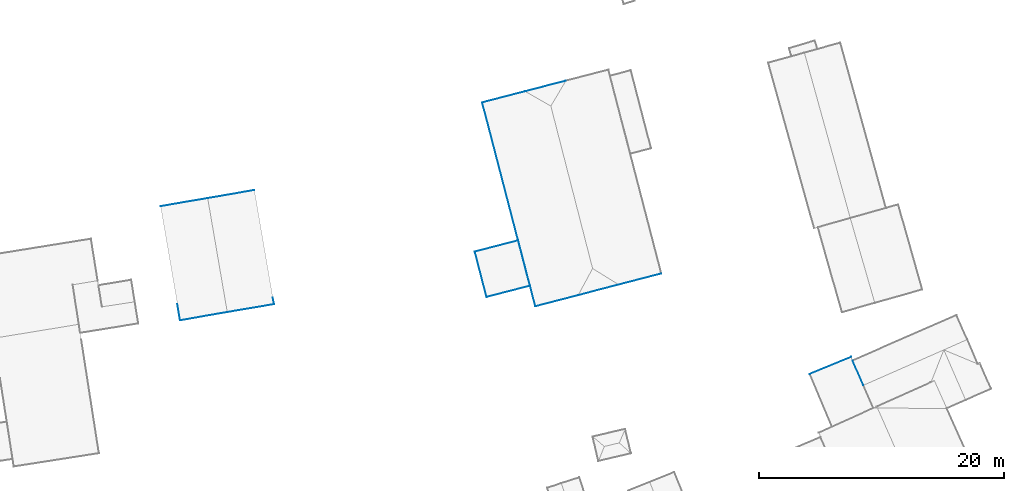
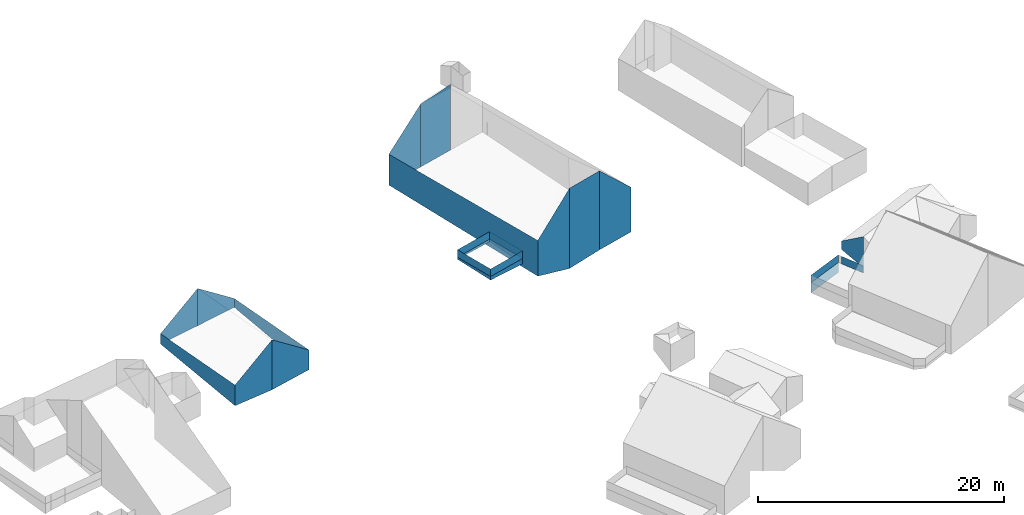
# Not in any storey, part 35 of 57: 30 walls.
"""IFC2X3 building model written with IfcOpenShell, lengths in metres."""

import ifcopenshell
import ifcopenshell.guid

model = None  # the IFC model being written
_history = None  # IfcOwnerHistory: only IFC2X3 demands one
_inside = {}  # id of a spatial element -> (the spatial element, [elements in it])
_under = {}  # id of a project, library or spatial element -> (it, [spatial elements below it])
_declared = {}  # id of a project -> (the project, [libraries it declares])
_typed = {}  # id of a type object -> (the type object, [elements of that type])
_made_of = {}  # id of a material, layer set ... -> (it, [elements and type objects made of it])


def new_model(schema):
    """Start an empty IFC model of exactly this schema.

    Asked for "IFC4X3", IfcOpenShell would pick the latest addendum, in which some entities
    have other attributes; the version numbers below select the first issue.
    IFC2X3 requires an IfcOwnerHistory on every rooted entity: one is made here for all.
    """
    global model, _history
    if schema == "IFC4X3":
        model = ifcopenshell.file(schema_version=(4, 3, 0, 0))
    else:
        model = ifcopenshell.file(schema=schema)
    _inside.clear()
    _under.clear()
    _declared.clear()
    _typed.clear()
    _made_of.clear()
    _history = None
    if model.schema == "IFC2X3":
        org = make("IfcOrganization", Name="unknown")
        user = make(
            "IfcPersonAndOrganization",
            ThePerson=make("IfcPerson", FamilyName="unknown"),
            TheOrganization=org,
        )
        app = make(
            "IfcApplication",
            ApplicationDeveloper=org,
            Version="unknown",
            ApplicationFullName="unknown",
            ApplicationIdentifier="unknown",
        )
        _history = make(
            "IfcOwnerHistory",
            OwningUser=user,
            OwningApplication=app,
            ChangeAction="ADDED",
            CreationDate=0,
        )
    return model


def make(cls, **values):
    """One entity of the class cls with the attributes given. An attribute that is None is left unset."""
    return model.create_entity(
        cls, **{name: value for name, value in values.items() if value is not None}
    )


def entity(cls, *values):
    """Any entity or typed value of the class cls, its attributes in the order of the schema. None: left unset."""
    e = model.create_entity(cls)
    for i, value in enumerate(values):
        if value is not None:
            e[i] = value
    return e


def rooted(cls, **values):
    """An entity with a GlobalId (a new one), such as an element, a storey or a relation."""
    return make(cls, GlobalId=ifcopenshell.guid.new(), OwnerHistory=_history, **values)


def si_unit(unit_type, name, prefix=None):
    """IfcSIUnit, for example si_unit("LENGTHUNIT", "METRE", prefix="MILLI")."""
    return make("IfcSIUnit", UnitType=unit_type, Prefix=prefix, Name=name)


def converted_unit(unit_type, name, factor, base, dimensions=None, offset=None):
    """IfcConversionBasedUnit, such as the inch: factor (a typed value) times the base unit."""
    return make(
        "IfcConversionBasedUnit"
        if offset is None
        else "IfcConversionBasedUnitWithOffset",
        ConversionOffset=offset,
        Dimensions=None
        if dimensions is None
        else entity("IfcDimensionalExponents", *dimensions),
        UnitType=unit_type,
        Name=name,
        ConversionFactor=make(
            "IfcMeasureWithUnit", ValueComponent=factor, UnitComponent=base
        ),
    )


def assignment(units):
    """IfcUnitAssignment: the units of a project."""
    return None if units is None else make("IfcUnitAssignment", Units=units)


def point(xyz):
    """IfcCartesianPoint."""
    return None if xyz is None else make("IfcCartesianPoint", Coordinates=xyz)


def direction(xyz):
    """IfcDirection."""
    return None if xyz is None else make("IfcDirection", DirectionRatios=xyz)


def frame(location, z_axis=None, x_axis=None):
    """IfcAxis2Placement3D, a coordinate frame: its origin and axes. An axis left out is left unset."""
    return make(
        "IfcAxis2Placement3D",
        Location=point(location),
        Axis=direction(z_axis),
        RefDirection=direction(x_axis),
    )


def origin():
    """The frame at (0, 0, 0) with its axes left unset."""
    return frame((0.0, 0.0, 0.0))


def place(relative_to, where):
    """IfcLocalPlacement: puts the frame where relative to a parent placement (None: the world)."""
    return make(
        "IfcLocalPlacement", PlacementRelTo=relative_to, RelativePlacement=where
    )


def context(
    kind, dimensions, precision=None, world=None, true_north=None, identifier=None
):
    """IfcGeometricRepresentationContext, for example the 3D "Model" context."""
    return make(
        "IfcGeometricRepresentationContext",
        ContextIdentifier=identifier,
        ContextType=kind,
        CoordinateSpaceDimension=dimensions,
        Precision=precision,
        WorldCoordinateSystem=world,
        TrueNorth=true_north,
    )


def subcontext(parent, identifier, kind, view, scale=None):
    """IfcGeometricRepresentationSubContext, for example "Body" below "Model"."""
    return make(
        "IfcGeometricRepresentationSubContext",
        ContextIdentifier=identifier,
        ContextType=kind,
        ParentContext=parent,
        TargetScale=scale,
        TargetView=view,
    )


def project(units=None, contexts=None):
    """IfcProject with its units and contexts."""
    return rooted(
        "IfcProject",
        Name="project",
        RepresentationContexts=contexts,
        UnitsInContext=assignment(units),
    )


def spatial(cls, under=None, at=None, **own):
    """A site, building, storey or space (cls), placed at a placement, below another one or the project."""
    s = rooted(cls, ObjectPlacement=at, **own)
    if under is not None:
        _under.setdefault(under.id(), (under, []))[1].append(s)
    return s


def faces_of(points, faces, orient=None, outer=None):
    """IfcFace entities. A face is a list of loops; a loop is a list of indices into points, from 0.

    orient and outer hold one flag for each loop. By default every Orientation is true, the
    first loop of a face is its IfcFaceOuterBound and the others are IfcFaceBound.
    """
    made = []
    for i, loops in enumerate(faces):
        bounds = []
        for j, loop in enumerate(loops):
            is_outer = j == 0 if outer is None else outer[i][j]
            bounds.append(
                make(
                    "IfcFaceOuterBound" if is_outer else "IfcFaceBound",
                    Bound=make("IfcPolyLoop", Polygon=[points[k] for k in loop]),
                    Orientation=True if orient is None else orient[i][j],
                )
            )
        made.append(make("IfcFace", Bounds=bounds))
    return made


def face_set(faces, orient=None, outer=None):
    """The faces of one IfcConnectedFaceSet. surface_model builds it on its shared points."""
    return ("IfcConnectedFaceSet", faces, orient, outer)


def surface_model(cls, points, shells):
    """IfcFaceBasedSurfaceModel or IfcShellBasedSurfaceModel (cls): surfaces that need not close."""
    shared = [point(p) for p in points]
    made = [make(c, CfsFaces=faces_of(shared, fs, o, b)) for c, fs, o, b in shells]
    if cls == "IfcFaceBasedSurfaceModel":
        return make(cls, FbsmFaces=made)
    return make(cls, SbsmBoundary=made)


def shape(context_of_items, identifier, shape_type, items):
    """IfcShapeRepresentation: the items that make up one representation, for example the "Body"."""
    return make(
        "IfcShapeRepresentation",
        ContextOfItems=context_of_items,
        RepresentationIdentifier=identifier,
        RepresentationType=shape_type,
        Items=items,
    )


def made_of(thing, what):
    """Note that an element or type object is made of a material, layer set ...; save() writes the relation."""
    if what is not None:
        _made_of.setdefault(what.id(), (what, []))[1].append(thing)
    return thing


def element(
    cls,
    number,
    at=None,
    inside=None,
    cuts=None,
    type_object=None,
    material=None,
    context=None,
    identifier="Body",
    shape_type=None,
    held_by="IfcProductDefinitionShape",
    body=None,
    shapes=None,
    **own,
):
    """One element of the class cls, such as IfcWall. Its Tag is "e" and its number.

    at: its placement. inside: the storey or other place that contains it. cuts: it is an
    opening in that element (IfcRelVoidsElement). A single representation is given by context,
    identifier, shape_type and body (its items); several are given by shapes. held_by: the class
    of the entity that holds the representations. save() writes the other relations.
    """
    e = rooted(cls, Tag="e%d" % number, ObjectPlacement=at, **own)
    if body is not None:
        shapes = [shape(context, identifier, shape_type, body)]
    if shapes is not None:
        e.Representation = make(held_by, Representations=shapes)
    if inside is not None:
        _inside.setdefault(inside.id(), (inside, []))[1].append(e)
    if cuts is not None:
        rooted(
            "IfcRelVoidsElement", RelatingBuildingElement=cuts, RelatedOpeningElement=e
        )
    if type_object is not None:
        _typed.setdefault(type_object.id(), (type_object, []))[1].append(e)
    return made_of(e, material)


def aggregate(whole, parts):
    """IfcRelAggregates: a whole, such as a stair, and the parts it consists of."""
    return rooted("IfcRelAggregates", RelatingObject=whole, RelatedObjects=parts)


def save(model, path):
    """Write the relations noted so far, then the file.

    IfcRelAggregates (storeys below a building ...), IfcRelContainedInSpatialStructure (elements
    in a storey), IfcRelDefinesByType, IfcRelAssociatesMaterial and IfcRelDeclares: one each for
    every whole, place, type object, material and project.
    """
    for whole, parts in _under.values():
        aggregate(whole, parts)
    for where, things in _inside.values():
        rooted(
            "IfcRelContainedInSpatialStructure",
            RelatedElements=things,
            RelatingStructure=where,
        )
    for kind, things in _typed.values():
        rooted("IfcRelDefinesByType", RelatedObjects=things, RelatingType=kind)
    for what, things in _made_of.values():
        rooted("IfcRelAssociatesMaterial", RelatedObjects=things, RelatingMaterial=what)
    for by, libraries in _declared.values():
        rooted("IfcRelDeclares", RelatingContext=by, RelatedDefinitions=libraries)
    model.write(path)


model = new_model("IFC2X3")

# Units and contexts
model_context = context("Model", 3, precision=1e-05, world=origin())
body_context = subcontext(model_context, "Body", "Model", "MODEL_VIEW")
ifc_project = project(units=[converted_unit("PLANEANGLEUNIT", "DEGREE", entity("IfcRatioMeasure", 0.0174532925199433), si_unit("PLANEANGLEUNIT", "RADIAN"), dimensions=[0, 0, 0, 0, 0, 0, 0]), si_unit("AREAUNIT", "SQUARE_METRE"), si_unit("LENGTHUNIT", "METRE")], contexts=[model_context])

# Site, building
site_placement = place(None, origin())
site = spatial("IfcSite", under=ifc_project, at=site_placement, Name="_site", CompositionType="ELEMENT")
building_1_placement = place(site_placement, origin())
building_1 = spatial("IfcBuilding", under=site, at=building_1_placement, Name="_building", CompositionType="ELEMENT")

# Walls
wall_1_placement = place(building_1_placement, origin())
element("IfcWall", 1, at=wall_1_placement, inside=building_1, Name="Wall", context=body_context, shape_type="SurfaceModel", body=[
    surface_model("IfcFaceBasedSurfaceModel", [(232.31, 233.869, 220.08), (231.43, 235.881, 218.74), (231.43, 235.881, 217.89), (232.31, 233.869, 216.994)], [face_set([[[0, 1, 2, 3]]])]),
])
for number, where, name in (
    (2, (0.0, 0.0, 0.0), "Wall"),
    (3, (0.0, 0.0, 0.0), "Wall"),
):
    element("IfcWall", number, at=place(building_1_placement, frame(where)), inside=building_1, Name=name, context=body_context, shape_type="SurfaceModel", body=[
        surface_model("IfcFaceBasedSurfaceModel", [(227.93, 234.789, 216.486), (231.31, 236.18, 216.486), (231.31, 236.18, 217.236), (227.93, 234.789, 217.236)], [face_set([[[0, 1, 2, 3]]])]),
    ])
for number, where, name in (
    (4, (0.0, 0.0, 0.0), "Wall"),
    (5, (0.0, 0.0, 0.0), "Wall"),
):
    element("IfcWall", number, at=place(building_1_placement, frame(where)), inside=building_1, Name=name, context=body_context, shape_type="SurfaceModel", body=[
        surface_model("IfcFaceBasedSurfaceModel", [(231.43, 235.881, 216.47), (232.31, 233.869, 216.47), (232.31, 233.869, 217.22), (231.43, 235.881, 217.22)], [face_set([[[0, 1, 2, 3]]])]),
    ])
wall_2_placement = place(building_1_placement, origin())
element("IfcWall", 6, at=wall_2_placement, inside=building_1, Name="Wall", context=body_context, shape_type="SurfaceModel", body=[
    surface_model("IfcFaceBasedSurfaceModel", [(227.93, 234.789, 216.486), (231.31, 236.18, 216.486), (231.31, 236.18, 215.486), (227.93, 234.789, 215.486)], [face_set([[[0, 1, 2, 3]]])]),
])

# Building
building_2_placement = place(site_placement, origin())
building_2 = spatial("IfcBuilding", under=site, at=building_2_placement, Name="_building", CompositionType="ELEMENT")

# Walls
wall_3_placement = place(building_2_placement, origin())
element("IfcWall", 7, at=wall_3_placement, inside=building_2, Name="Wall", context=body_context, shape_type="SurfaceModel", body=[
    surface_model("IfcFaceBasedSurfaceModel", [(178.73, 249.15, 224.44), (182.55, 249.811, 221.71), (182.55, 249.811, 220.823), (178.73, 249.15, 220.736)], [face_set([[[0, 1, 2, 3]]])]),
])
wall_4_placement = place(building_2_placement, origin())
element("IfcWall", 8, at=wall_4_placement, inside=building_2, Name="Wall", context=body_context, shape_type="SurfaceModel", body=[
    surface_model("IfcFaceBasedSurfaceModel", [(174.88, 248.49, 221.71), (178.73, 249.15, 224.44), (178.73, 249.15, 220.736), (174.88, 248.49, 220.678)], [face_set([[[0, 1, 2, 3]]])]),
])
wall_5_placement = place(building_2_placement, origin())
element("IfcWall", 9, at=wall_5_placement, inside=building_2, Name="Wall", context=body_context, shape_type="SurfaceModel", body=[
    surface_model("IfcFaceBasedSurfaceModel", [(180.33, 239.84, 224.44), (176.48, 239.17, 221.71), (176.48, 239.17, 219.656), (180.33, 239.84, 219.484)], [face_set([[[0, 1, 2, 3]]])]),
])
wall_6_placement = place(building_2_placement, origin())
element("IfcWall", 10, at=wall_6_placement, inside=building_2, Name="Wall", context=body_context, shape_type="SurfaceModel", body=[
    surface_model("IfcFaceBasedSurfaceModel", [(184.15, 240.49, 221.71), (180.33, 239.84, 224.44), (180.33, 239.84, 219.484), (184.15, 240.49, 219.739)], [face_set([[[0, 1, 2, 3]]])]),
])
wall_7_placement = place(building_2_placement, origin())
element("IfcWall", 11, at=wall_7_placement, inside=building_2, Name="Wall", context=body_context, shape_type="SurfaceModel", body=[
    surface_model("IfcFaceBasedSurfaceModel", [(182.55, 249.811, 221.71), (184.15, 240.49, 221.71), (184.15, 240.49, 219.739), (182.55, 249.811, 220.823)], [face_set([[[0, 1, 2, 3]]])]),
])
wall_8_placement = place(building_2_placement, origin())
element("IfcWall", 12, at=wall_8_placement, inside=building_2, Name="Wall", context=body_context, shape_type="SurfaceModel", body=[
    surface_model("IfcFaceBasedSurfaceModel", [(176.48, 239.17, 221.71), (174.88, 248.49, 221.71), (174.88, 248.49, 220.678), (176.48, 239.17, 219.656)], [face_set([[[0, 1, 2, 3]]])]),
])

# Building
building_3_placement = place(site_placement, origin())
building_3 = spatial("IfcBuilding", under=site, at=building_3_placement, Name="_building", CompositionType="ELEMENT")

# Walls
wall_9_placement = place(building_3_placement, origin())
element("IfcWall", 13, at=wall_9_placement, inside=building_3, Name="Wall", context=body_context, shape_type="SurfaceModel", body=[
    surface_model("IfcFaceBasedSurfaceModel", [(204.67, 257.881, 228.33), (207.99, 258.74, 228.61), (207.99, 258.74, 222.09), (204.67, 257.881, 222.089)], [face_set([[[0, 1, 2, 3]]])]),
])
wall_10_placement = place(building_3_placement, origin())
element("IfcWall", 14, at=wall_10_placement, inside=building_3, Name="Wall", context=body_context, shape_type="SurfaceModel", body=[
    surface_model("IfcFaceBasedSurfaceModel", [(201.17, 256.971, 225.14), (204.67, 257.881, 228.33), (204.67, 257.881, 222.089), (201.17, 256.971, 222.088)], [face_set([[[0, 1, 2, 3]]])]),
])
wall_11_placement = place(building_3_placement, origin())
element("IfcWall", 15, at=wall_11_placement, inside=building_3, Name="Wall", context=body_context, shape_type="SurfaceModel", body=[
    surface_model("IfcFaceBasedSurfaceModel", [(215.81, 243.0, 225.21), (212.31, 242.09, 228.61), (212.31, 242.09, 220.781), (215.81, 243.0, 220.793)], [face_set([[[0, 1, 2, 3]]])]),
])
wall_12_placement = place(building_3_placement, origin())
element("IfcWall", 16, at=wall_12_placement, inside=building_3, Name="Wall", context=body_context, shape_type="SurfaceModel", body=[
    surface_model("IfcFaceBasedSurfaceModel", [(212.31, 242.09, 228.61), (209.0, 241.221, 228.57), (209.0, 241.221, 220.624), (212.31, 242.09, 220.781)], [face_set([[[0, 1, 2, 3]]])]),
])
wall_13_placement = place(building_3_placement, origin())
element("IfcWall", 17, at=wall_13_placement, inside=building_3, Name="Wall", context=body_context, shape_type="SurfaceModel", body=[
    surface_model("IfcFaceBasedSurfaceModel", [(209.0, 241.221, 228.57), (205.51, 240.311, 225.18), (205.51, 240.311, 221.641), (209.0, 241.221, 220.624)], [face_set([[[0, 1, 2, 3]]])]),
])
wall_14_placement = place(building_3_placement, origin())
element("IfcWall", 18, at=wall_14_placement, inside=building_3, Name="Wall", context=body_context, shape_type="SurfaceModel", body=[
    surface_model("IfcFaceBasedSurfaceModel", [(205.51, 240.311, 225.18), (201.17, 256.971, 225.14), (201.17, 256.971, 222.088), (205.51, 240.311, 221.641)], [face_set([[[0, 1, 2, 3]]])]),
])
wall_15_placement = place(building_3_placement, origin())
element("IfcWall", 19, at=wall_15_placement, inside=building_3, Name="Wall", context=body_context, shape_type="SurfaceModel", body=[
    surface_model("IfcFaceBasedSurfaceModel", [(200.57, 244.779, 222.53), (204.11, 245.699, 222.53), (204.11, 245.699, 223.28), (200.57, 244.779, 223.28)], [face_set([[[0, 1, 2, 3]]])]),
])
wall_16_placement = place(building_3_placement, origin())
element("IfcWall", 20, at=wall_16_placement, inside=building_3, Name="Wall", context=body_context, shape_type="SurfaceModel", body=[
    surface_model("IfcFaceBasedSurfaceModel", [(201.53, 241.08, 222.53), (200.57, 244.779, 222.53), (200.57, 244.779, 223.28), (201.53, 241.08, 223.28)], [face_set([[[0, 1, 2, 3]]])]),
])
wall_17_placement = place(building_3_placement, origin())
element("IfcWall", 21, at=wall_17_placement, inside=building_3, Name="Wall", context=body_context, shape_type="SurfaceModel", body=[
    surface_model("IfcFaceBasedSurfaceModel", [(205.07, 242.0, 222.53), (201.53, 241.08, 222.53), (201.53, 241.08, 223.28), (205.07, 242.0, 223.28)], [face_set([[[0, 1, 2, 3]]])]),
])
wall_18_placement = place(building_3_placement, origin())
element("IfcWall", 22, at=wall_18_placement, inside=building_3, Name="Wall", context=body_context, shape_type="SurfaceModel", body=[
    surface_model("IfcFaceBasedSurfaceModel", [(204.11, 245.699, 222.53), (205.07, 242.0, 222.53), (205.07, 242.0, 223.28), (204.11, 245.699, 223.28)], [face_set([[[0, 1, 2, 3]]])]),
])
wall_19_placement = place(building_3_placement, origin())
element("IfcWall", 23, at=wall_19_placement, inside=building_3, Name="Wall", context=body_context, shape_type="SurfaceModel", body=[
    surface_model("IfcFaceBasedSurfaceModel", [(200.57, 244.779, 222.53), (204.11, 245.699, 222.53), (204.11, 245.699, 223.28), (200.57, 244.779, 223.28)], [face_set([[[0, 1, 2, 3]]])]),
])
wall_20_placement = place(building_3_placement, origin())
element("IfcWall", 24, at=wall_20_placement, inside=building_3, Name="Wall", context=body_context, shape_type="SurfaceModel", body=[
    surface_model("IfcFaceBasedSurfaceModel", [(201.53, 241.08, 222.53), (200.57, 244.779, 222.53), (200.57, 244.779, 223.28), (201.53, 241.08, 223.28)], [face_set([[[0, 1, 2, 3]]])]),
])
wall_21_placement = place(building_3_placement, origin())
element("IfcWall", 25, at=wall_21_placement, inside=building_3, Name="Wall", context=body_context, shape_type="SurfaceModel", body=[
    surface_model("IfcFaceBasedSurfaceModel", [(205.07, 242.0, 222.53), (201.53, 241.08, 222.53), (201.53, 241.08, 223.28), (205.07, 242.0, 223.28)], [face_set([[[0, 1, 2, 3]]])]),
])
wall_22_placement = place(building_3_placement, origin())
element("IfcWall", 26, at=wall_22_placement, inside=building_3, Name="Wall", context=body_context, shape_type="SurfaceModel", body=[
    surface_model("IfcFaceBasedSurfaceModel", [(204.11, 245.699, 222.53), (205.07, 242.0, 222.53), (205.07, 242.0, 223.28), (204.11, 245.699, 223.28)], [face_set([[[0, 1, 2, 3]]])]),
])
wall_23_placement = place(building_3_placement, origin())
element("IfcWall", 27, at=wall_23_placement, inside=building_3, Name="Wall", context=body_context, shape_type="SurfaceModel", body=[
    surface_model("IfcFaceBasedSurfaceModel", [(200.57, 244.779, 222.53), (204.11, 245.699, 222.53), (204.11, 245.699, 222.277), (200.57, 244.779, 222.33)], [face_set([[[0, 1, 2, 3]]])]),
])
wall_24_placement = place(building_3_placement, origin())
element("IfcWall", 28, at=wall_24_placement, inside=building_3, Name="Wall", context=body_context, shape_type="SurfaceModel", body=[
    surface_model("IfcFaceBasedSurfaceModel", [(201.53, 241.08, 222.53), (200.57, 244.779, 222.53), (200.57, 244.779, 222.33), (201.53, 241.08, 222.177)], [face_set([[[0, 1, 2, 3]]])]),
])
wall_25_placement = place(building_3_placement, origin())
element("IfcWall", 29, at=wall_25_placement, inside=building_3, Name="Wall", context=body_context, shape_type="SurfaceModel", body=[
    surface_model("IfcFaceBasedSurfaceModel", [(205.07, 242.0, 222.53), (201.53, 241.08, 222.53), (201.53, 241.08, 222.177), (205.07, 242.0, 222.003)], [face_set([[[0, 1, 2, 3]]])]),
])
wall_26_placement = place(building_3_placement, origin())
element("IfcWall", 30, at=wall_26_placement, inside=building_3, Name="Wall", context=body_context, shape_type="SurfaceModel", body=[
    surface_model("IfcFaceBasedSurfaceModel", [(204.11, 245.699, 222.53), (205.07, 242.0, 222.53), (205.07, 242.0, 222.003), (204.11, 245.699, 222.277)], [face_set([[[0, 1, 2, 3]]])]),
])

save(model, "model.ifc")
